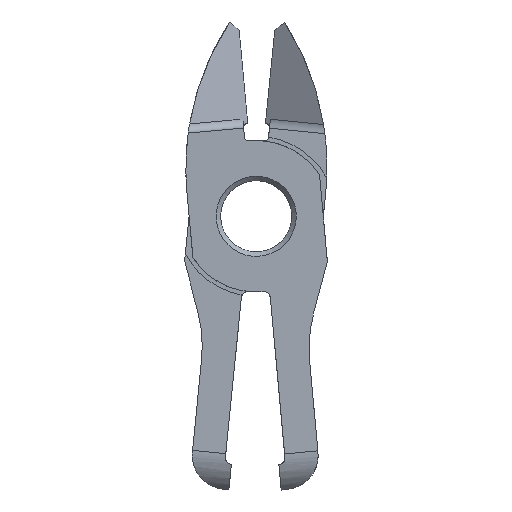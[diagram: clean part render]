
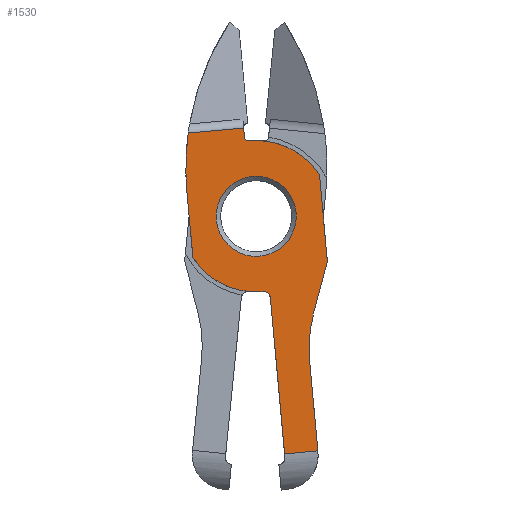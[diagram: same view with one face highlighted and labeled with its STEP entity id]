
A CAD part, front view. The second image highlights one B-rep face of the part: STEP entity #1530.
In plain terms, the highlighted planar face has unit normal (0, -1, 0).
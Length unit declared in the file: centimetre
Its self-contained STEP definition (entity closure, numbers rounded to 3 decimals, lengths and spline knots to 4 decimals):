
#35=FACE_BOUND('',#252,.T.);
#158=FACE_OUTER_BOUND('',#251,.T.);
#251=EDGE_LOOP('',(#1232,#1233,#1234,#1235,#1236,#1237,#1238,#1239,#1240,
#1241,#1242,#1243,#1244,#1245));
#252=EDGE_LOOP('',(#1246));
#321=CIRCLE('',#1645,1.5);
#328=CIRCLE('',#1659,0.45);
#338=CIRCLE('',#1685,3.);
#340=CIRCLE('',#1688,0.85);
#341=CIRCLE('',#1689,0.05);
#342=CIRCLE('',#1690,0.85);
#343=CIRCLE('',#1691,0.075);
#414=LINE('',#2468,#522);
#420=LINE('',#2490,#528);
#424=LINE('',#2514,#532);
#427=LINE('',#2536,#535);
#434=LINE('',#2569,#542);
#450=LINE('',#2632,#558);
#451=LINE('',#2638,#559);
#452=LINE('',#2639,#560);
#522=VECTOR('',#1968,0.9758);
#528=VECTOR('',#1980,1.0225);
#532=VECTOR('',#1992,0.6127);
#535=VECTOR('',#2015,0.6254);
#542=VECTOR('',#2038,0.1);
#558=VECTOR('',#2096,0.7352);
#559=VECTOR('',#2101,1.762);
#560=VECTOR('',#2102,0.375);
#653=VERTEX_POINT('',#2465);
#654=VERTEX_POINT('',#2467);
#659=VERTEX_POINT('',#2483);
#660=VERTEX_POINT('',#2485);
#661=VERTEX_POINT('',#2489);
#670=VERTEX_POINT('',#2527);
#673=VERTEX_POINT('',#2533);
#674=VERTEX_POINT('',#2535);
#682=VERTEX_POINT('',#2568);
#699=VERTEX_POINT('',#2621);
#701=VERTEX_POINT('',#2628);
#702=VERTEX_POINT('',#2631);
#703=VERTEX_POINT('',#2633);
#704=VERTEX_POINT('',#2635);
#705=VERTEX_POINT('',#2637);
#832=EDGE_CURVE('',#653,#654,#414,.T.);
#838=EDGE_CURVE('',#659,#660,#321,.T.);
#840=EDGE_CURVE('',#660,#661,#420,.T.);
#848=EDGE_CURVE('',#654,#659,#424,.T.);
#853=EDGE_CURVE('',#670,#670,#328,.T.);
#856=EDGE_CURVE('',#673,#674,#427,.T.);
#868=EDGE_CURVE('',#674,#682,#434,.T.);
#892=EDGE_CURVE('',#699,#673,#338,.T.);
#895=EDGE_CURVE('',#701,#653,#340,.T.);
#896=EDGE_CURVE('',#682,#701,#341,.T.);
#897=EDGE_CURVE('',#699,#702,#450,.T.);
#898=EDGE_CURVE('',#703,#702,#342,.T.);
#899=EDGE_CURVE('',#704,#703,#343,.T.);
#900=EDGE_CURVE('',#704,#705,#451,.T.);
#901=EDGE_CURVE('',#705,#661,#452,.T.);
#1232=ORIENTED_EDGE('',*,*,#840,.F.);
#1233=ORIENTED_EDGE('',*,*,#838,.F.);
#1234=ORIENTED_EDGE('',*,*,#848,.F.);
#1235=ORIENTED_EDGE('',*,*,#832,.F.);
#1236=ORIENTED_EDGE('',*,*,#895,.F.);
#1237=ORIENTED_EDGE('',*,*,#896,.F.);
#1238=ORIENTED_EDGE('',*,*,#868,.F.);
#1239=ORIENTED_EDGE('',*,*,#856,.F.);
#1240=ORIENTED_EDGE('',*,*,#892,.F.);
#1241=ORIENTED_EDGE('',*,*,#897,.T.);
#1242=ORIENTED_EDGE('',*,*,#898,.F.);
#1243=ORIENTED_EDGE('',*,*,#899,.F.);
#1244=ORIENTED_EDGE('',*,*,#900,.T.);
#1245=ORIENTED_EDGE('',*,*,#901,.T.);
#1246=ORIENTED_EDGE('',*,*,#853,.F.);
#1377=PLANE('',#1687);
#1530=ADVANCED_FACE('',(#158,#35),#1377,.T.);
#1645=AXIS2_PLACEMENT_3D('',#2486,#1975,#1976);
#1659=AXIS2_PLACEMENT_3D('',#2528,#2009,#2010);
#1685=AXIS2_PLACEMENT_3D('',#2623,#2085,#2086);
#1687=AXIS2_PLACEMENT_3D('',#2627,#2090,#2091);
#1688=AXIS2_PLACEMENT_3D('',#2629,#2092,#2093);
#1689=AXIS2_PLACEMENT_3D('',#2630,#2094,#2095);
#1690=AXIS2_PLACEMENT_3D('',#2634,#2097,#2098);
#1691=AXIS2_PLACEMENT_3D('',#2636,#2099,#2100);
#1968=DIRECTION('',(0.091,0.,-0.996));
#1975=DIRECTION('center_axis',(0.,-1.,0.));
#1976=DIRECTION('ref_axis',(-0.996,0.,-0.091));
#1980=DIRECTION('',(0.091,0.,-0.996));
#1992=DIRECTION('',(-0.255,0.,-0.967));
#2009=DIRECTION('center_axis',(0.,-1.,0.));
#2010=DIRECTION('ref_axis',(-0.996,0.,-0.091));
#2015=DIRECTION('',(0.996,0.,0.091));
#2038=DIRECTION('',(0.091,0.,-0.996));
#2085=DIRECTION('center_axis',(0.,1.,0.));
#2086=DIRECTION('ref_axis',(-0.991,0.,0.132));
#2090=DIRECTION('center_axis',(0.,-1.,0.));
#2091=DIRECTION('ref_axis',(0.,0.,-1.));
#2092=DIRECTION('center_axis',(0.,1.,0.));
#2093=DIRECTION('ref_axis',(0.836,0.,0.549));
#2094=DIRECTION('center_axis',(0.,-1.,0.));
#2095=DIRECTION('ref_axis',(0.091,0.,-0.996));
#2096=DIRECTION('',(0.091,0.,-0.996));
#2097=DIRECTION('center_axis',(0.,1.,0.));
#2098=DIRECTION('ref_axis',(-0.836,0.,-0.549));
#2099=DIRECTION('center_axis',(0.,-1.,0.));
#2100=DIRECTION('ref_axis',(-0.091,0.,0.996));
#2101=DIRECTION('',(0.091,0.,-0.996));
#2102=DIRECTION('',(0.996,0.,0.091));
#2465=CARTESIAN_POINT('',(0.7105,-0.92,2.8666));
#2467=CARTESIAN_POINT('',(0.7993,-0.92,1.8949));
#2468=CARTESIAN_POINT('',(0.7105,-0.92,2.8666));
#2483=CARTESIAN_POINT('',(0.643,-0.92,1.3025));
#2485=CARTESIAN_POINT('',(0.5996,-0.92,0.7834));
#2486=CARTESIAN_POINT('Origin',(2.0934,-0.92,0.9198));
#2489=CARTESIAN_POINT('',(0.6926,-0.92,-0.2349));
#2490=CARTESIAN_POINT('',(0.5996,-0.92,0.7834));
#2514=CARTESIAN_POINT('',(0.7993,-0.92,1.8949));
#2527=CARTESIAN_POINT('',(-0.4481,-0.92,2.3591));
#2528=CARTESIAN_POINT('Origin',(0.,-0.92,2.4));
#2533=CARTESIAN_POINT('',(-0.7636,-0.92,3.3344));
#2535=CARTESIAN_POINT('',(-0.1408,-0.92,3.3913));
#2536=CARTESIAN_POINT('',(-0.7636,-0.92,3.3344));
#2568=CARTESIAN_POINT('',(-0.1317,-0.92,3.2917));
#2569=CARTESIAN_POINT('',(-0.1408,-0.92,3.3913));
#2621=CARTESIAN_POINT('',(-0.7774,-0.92,2.6656));
#2623=CARTESIAN_POINT('Origin',(2.2102,-0.92,2.9385));
#2627=CARTESIAN_POINT('Origin',(0.2445,-0.92,-0.2758));
#2628=CARTESIAN_POINT('',(-0.0773,-0.92,3.2465));
#2629=CARTESIAN_POINT('Origin',(0.,-0.92,2.4));
#2630=CARTESIAN_POINT('Origin',(-0.0819,-0.92,3.2963));
#2631=CARTESIAN_POINT('',(-0.7105,-0.92,1.9334));
#2632=CARTESIAN_POINT('',(-0.7774,-0.92,2.6656));
#2633=CARTESIAN_POINT('',(0.0773,-0.92,1.5535));
#2634=CARTESIAN_POINT('Origin',(0.,-0.92,2.4));
#2635=CARTESIAN_POINT('',(0.1589,-0.92,1.4857));
#2636=CARTESIAN_POINT('Origin',(0.0842,-0.92,1.4788));
#2637=CARTESIAN_POINT('',(0.3192,-0.92,-0.269));
#2638=CARTESIAN_POINT('',(0.1589,-0.92,1.4857));
#2639=CARTESIAN_POINT('',(0.3192,-0.92,-0.269));
